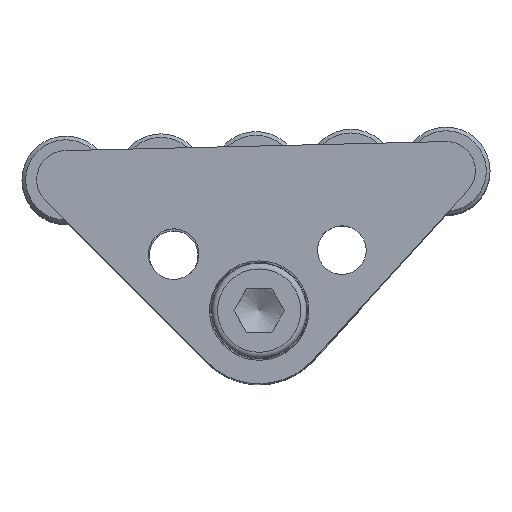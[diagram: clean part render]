
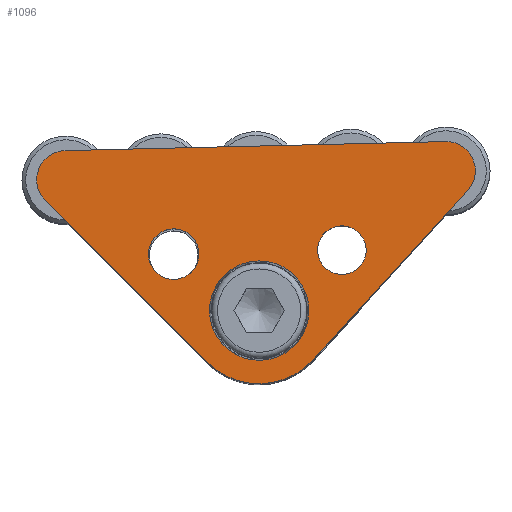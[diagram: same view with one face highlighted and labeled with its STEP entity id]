
A CAD part, top view. The second image highlights one B-rep face of the part: STEP entity #1096.
In plain terms, the highlighted planar face has unit normal (0, 0, 1).
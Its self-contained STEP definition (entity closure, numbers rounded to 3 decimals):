
#270=FACE_BOUND('',#406,.T.);
#271=FACE_BOUND('',#407,.T.);
#272=FACE_BOUND('',#408,.T.);
#292=PLANE('',#1327);
#333=FACE_OUTER_BOUND('',#405,.T.);
#405=EDGE_LOOP('',(#907,#908,#909,#910,#911,#912));
#406=EDGE_LOOP('',(#913));
#407=EDGE_LOOP('',(#914));
#408=EDGE_LOOP('',(#915));
#470=LINE('',#1951,#524);
#473=LINE('',#1959,#527);
#477=LINE('',#1967,#531);
#524=VECTOR('',#1557,10.);
#527=VECTOR('',#1566,10.);
#531=VECTOR('',#1576,10.);
#564=CIRCLE('',#1280,6.8);
#567=CIRCLE('',#1285,3.456);
#569=CIRCLE('',#1288,3.324);
#586=CIRCLE('',#1319,4.);
#587=CIRCLE('',#1322,4.);
#588=CIRCLE('',#1325,10.);
#623=VERTEX_POINT('',#1868);
#626=VERTEX_POINT('',#1877);
#628=VERTEX_POINT('',#1883);
#648=VERTEX_POINT('',#1944);
#649=VERTEX_POINT('',#1945);
#650=VERTEX_POINT('',#1950);
#651=VERTEX_POINT('',#1954);
#652=VERTEX_POINT('',#1958);
#653=VERTEX_POINT('',#1962);
#702=EDGE_CURVE('',#623,#623,#564,.T.);
#706=EDGE_CURVE('',#626,#626,#567,.T.);
#709=EDGE_CURVE('',#628,#628,#569,.T.);
#736=EDGE_CURVE('',#648,#649,#586,.T.);
#739=EDGE_CURVE('',#649,#650,#470,.T.);
#741=EDGE_CURVE('',#650,#651,#587,.T.);
#743=EDGE_CURVE('',#651,#652,#473,.T.);
#745=EDGE_CURVE('',#652,#653,#588,.T.);
#748=EDGE_CURVE('',#653,#648,#477,.T.);
#907=ORIENTED_EDGE('',*,*,#736,.F.);
#908=ORIENTED_EDGE('',*,*,#748,.F.);
#909=ORIENTED_EDGE('',*,*,#745,.F.);
#910=ORIENTED_EDGE('',*,*,#743,.F.);
#911=ORIENTED_EDGE('',*,*,#741,.F.);
#912=ORIENTED_EDGE('',*,*,#739,.F.);
#913=ORIENTED_EDGE('',*,*,#702,.T.);
#914=ORIENTED_EDGE('',*,*,#706,.T.);
#915=ORIENTED_EDGE('',*,*,#709,.T.);
#1096=ADVANCED_FACE('',(#333,#270,#271,#272),#292,.T.);
#1280=AXIS2_PLACEMENT_3D('',#1869,#1461,#1462);
#1285=AXIS2_PLACEMENT_3D('',#1878,#1472,#1473);
#1288=AXIS2_PLACEMENT_3D('',#1884,#1479,#1480);
#1319=AXIS2_PLACEMENT_3D('',#1946,#1551,#1552);
#1322=AXIS2_PLACEMENT_3D('',#1955,#1561,#1562);
#1325=AXIS2_PLACEMENT_3D('',#1963,#1570,#1571);
#1327=AXIS2_PLACEMENT_3D('',#1968,#1577,#1578);
#1461=DIRECTION('center_axis',(0.,0.,
-1.));
#1462=DIRECTION('ref_axis',(-1.,0.,0.));
#1472=DIRECTION('center_axis',(0.,0.,
-1.));
#1473=DIRECTION('ref_axis',(1.,0.,0.));
#1479=DIRECTION('center_axis',(0.,0.,
-1.));
#1480=DIRECTION('ref_axis',(1.,0.,0.));
#1551=DIRECTION('center_axis',(0.,0.,-1.));
#1552=DIRECTION('ref_axis',(0.,-1.,0.));
#1557=DIRECTION('',(1.,0.,0.));
#1561=DIRECTION('center_axis',(0.,0.,-1.));
#1562=DIRECTION('ref_axis',(-0.723,0.691,0.));
#1566=DIRECTION('',(-0.691,-0.723,0.));
#1570=DIRECTION('center_axis',(0.,0.,-1.));
#1571=DIRECTION('ref_axis',(0.723,0.691,0.));
#1576=DIRECTION('',(-0.691,0.723,0.));
#1577=DIRECTION('center_axis',(0.,0.,
1.));
#1578=DIRECTION('ref_axis',(1.,0.,0.));
#1868=CARTESIAN_POINT('',(5.8,-7.5,4.));
#1869=CARTESIAN_POINT('Origin',(-1.,-7.5,4.));
#1877=CARTESIAN_POINT('',(-15.956,0.5,4.));
#1878=CARTESIAN_POINT('Origin',(-12.5,0.5,4.));
#1883=CARTESIAN_POINT('',(7.177,0.5,4.));
#1884=CARTESIAN_POINT('Origin',(10.5,0.5,4.));
#1944=CARTESIAN_POINT('',(-29.89,8.235,4.));
#1945=CARTESIAN_POINT('',(-27.,15.,4.));
#1946=CARTESIAN_POINT('Origin',(-27.,11.,4.));
#1950=CARTESIAN_POINT('',(25.,15.,4.));
#1951=CARTESIAN_POINT('',(-27.,15.,4.));
#1954=CARTESIAN_POINT('',(27.89,8.235,4.));
#1955=CARTESIAN_POINT('Origin',(25.,11.,4.));
#1958=CARTESIAN_POINT('',(6.226,-14.412,4.));
#1959=CARTESIAN_POINT('',(27.89,8.235,4.));
#1962=CARTESIAN_POINT('',(-8.226,-14.412,4.));
#1963=CARTESIAN_POINT('Origin',(-1.,-7.5,4.));
#1967=CARTESIAN_POINT('',(-8.226,-14.412,4.));
#1968=CARTESIAN_POINT('Origin',(-1.,3.688,4.));
